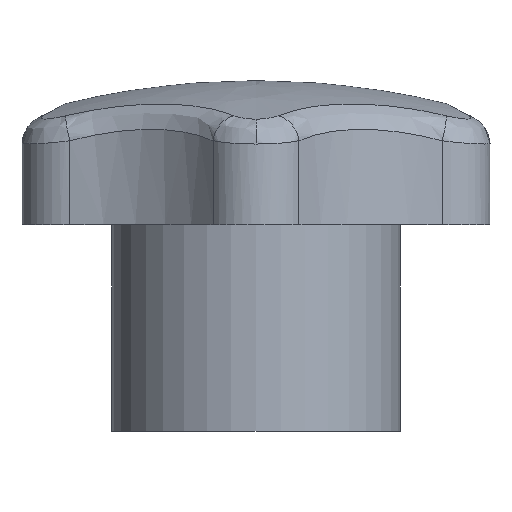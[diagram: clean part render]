
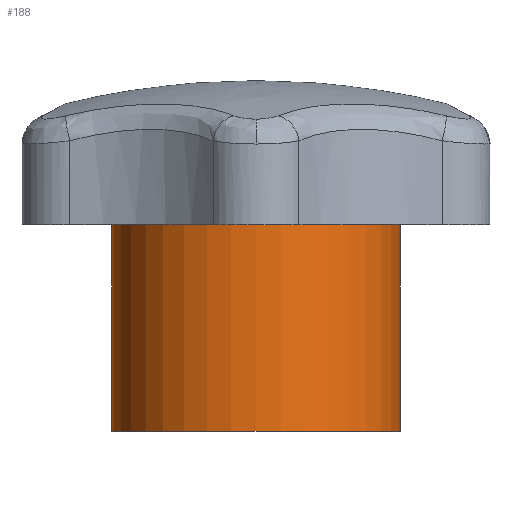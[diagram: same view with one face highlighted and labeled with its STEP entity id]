
A CAD part, left-side view. The second image highlights one B-rep face of the part: STEP entity #188.
In plain terms, the highlighted cylindrical face has radius 11 mm (diameter 22 mm), a full revolution.
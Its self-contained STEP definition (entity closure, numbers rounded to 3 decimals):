
#152=CARTESIAN_POINT('',(-11.,0.,15.75));
#153=VERTEX_POINT('',#152);
#154=CARTESIAN_POINT('',(0.,0.,15.75));
#155=DIRECTION('',(-1.,0.,-0.));
#156=DIRECTION('',(0.,0.,1.));
#157=AXIS2_PLACEMENT_3D('',#154,#156,#155);
#158=CIRCLE('',#157,11.);
#159=EDGE_CURVE('',#153,#153,#158,.T.);
#164=CARTESIAN_POINT('',(0.,0.,15.75));
#165=DIRECTION('',(-1.,0.,0.));
#166=DIRECTION('',(0.,0.,-1.));
#167=AXIS2_PLACEMENT_3D('',#164,#166,#165);
#168=CYLINDRICAL_SURFACE('',#167,11.);
#169=CARTESIAN_POINT('',(-11.,0.,0.));
#170=VERTEX_POINT('',#169);
#171=CARTESIAN_POINT('',(-11.,0.,15.75));
#172=DIRECTION('',(0.,0.,-1.));
#173=VECTOR('',#172,15.75);
#174=LINE('',#171,#173);
#175=EDGE_CURVE('',#153,#170,#174,.T.);
#176=ORIENTED_EDGE('E55',*,*,#175,.T.);
#177=CARTESIAN_POINT('',(0.,0.,0.));
#178=DIRECTION('',(-1.,-0.,0.));
#179=DIRECTION('',(0.,0.,1.));
#180=AXIS2_PLACEMENT_3D('',#177,#179,#178);
#181=CIRCLE('',#180,11.);
#182=EDGE_CURVE('',#170,#170,#181,.T.);
#183=ORIENTED_EDGE('E57',*,*,#182,.T.);
#184=ORIENTED_EDGE('E57',*,*,#175,.F.);
#185=ORIENTED_EDGE('E57',*,*,#159,.F.);
#186=EDGE_LOOP('',(#176,#183,#184,#185));
#187=FACE_OUTER_BOUND('',#186,.T.);
#188=ADVANCED_FACE('F50',(#187),#168,.T.);
